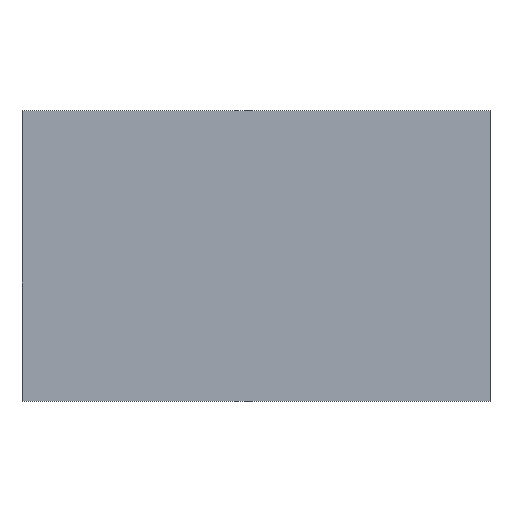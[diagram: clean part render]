
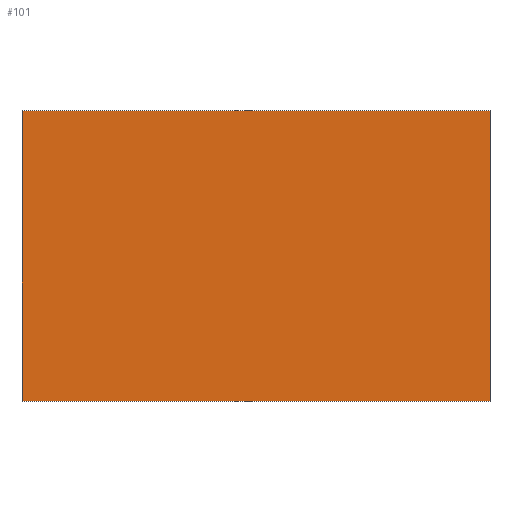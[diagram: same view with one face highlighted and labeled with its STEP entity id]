
A CAD part, top view. The second image highlights one B-rep face of the part: STEP entity #101.
In plain terms, the highlighted planar face has unit normal (0, 0, 1).
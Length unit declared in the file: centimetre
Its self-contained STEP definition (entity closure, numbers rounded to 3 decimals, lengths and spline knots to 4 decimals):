
#15=FACE_OUTER_BOUND('',#21,.T.);
#21=EDGE_LOOP('',(#71,#72,#73,#74));
#27=LINE('',#157,#39);
#28=LINE('',#159,#40);
#29=LINE('',#161,#41);
#30=LINE('',#162,#42);
#39=VECTOR('',#131,1.);
#40=VECTOR('',#132,1.);
#41=VECTOR('',#133,1.);
#42=VECTOR('',#134,1.);
#51=VERTEX_POINT('',#155);
#52=VERTEX_POINT('',#156);
#53=VERTEX_POINT('',#158);
#54=VERTEX_POINT('',#160);
#59=EDGE_CURVE('',#51,#52,#27,.T.);
#60=EDGE_CURVE('',#52,#53,#28,.T.);
#61=EDGE_CURVE('',#53,#54,#29,.T.);
#62=EDGE_CURVE('',#54,#51,#30,.T.);
#71=ORIENTED_EDGE('',*,*,#59,.T.);
#72=ORIENTED_EDGE('',*,*,#60,.T.);
#73=ORIENTED_EDGE('',*,*,#61,.T.);
#74=ORIENTED_EDGE('',*,*,#62,.T.);
#95=PLANE('',#121);
#101=ADVANCED_FACE('',(#15),#95,.T.);
#121=AXIS2_PLACEMENT_3D('',#154,#129,#130);
#129=DIRECTION('center_axis',(0.,0.,1.));
#130=DIRECTION('ref_axis',(1.,0.,0.));
#131=DIRECTION('',(0.,1.,0.));
#132=DIRECTION('',(-1.,0.,0.));
#133=DIRECTION('',(0.,-1.,0.));
#134=DIRECTION('',(1.,0.,0.));
#154=CARTESIAN_POINT('Origin',(0.,4.34,-1.21));
#155=CARTESIAN_POINT('',(3.1,2.415,-1.21));
#156=CARTESIAN_POINT('',(3.1,6.265,-1.21));
#157=CARTESIAN_POINT('',(3.1,4.34,-1.21));
#158=CARTESIAN_POINT('',(-3.1,6.265,-1.21));
#159=CARTESIAN_POINT('',(0.,6.265,-1.21));
#160=CARTESIAN_POINT('',(-3.1,2.415,-1.21));
#161=CARTESIAN_POINT('',(-3.1,4.34,-1.21));
#162=CARTESIAN_POINT('',(0.,2.415,-1.21));
